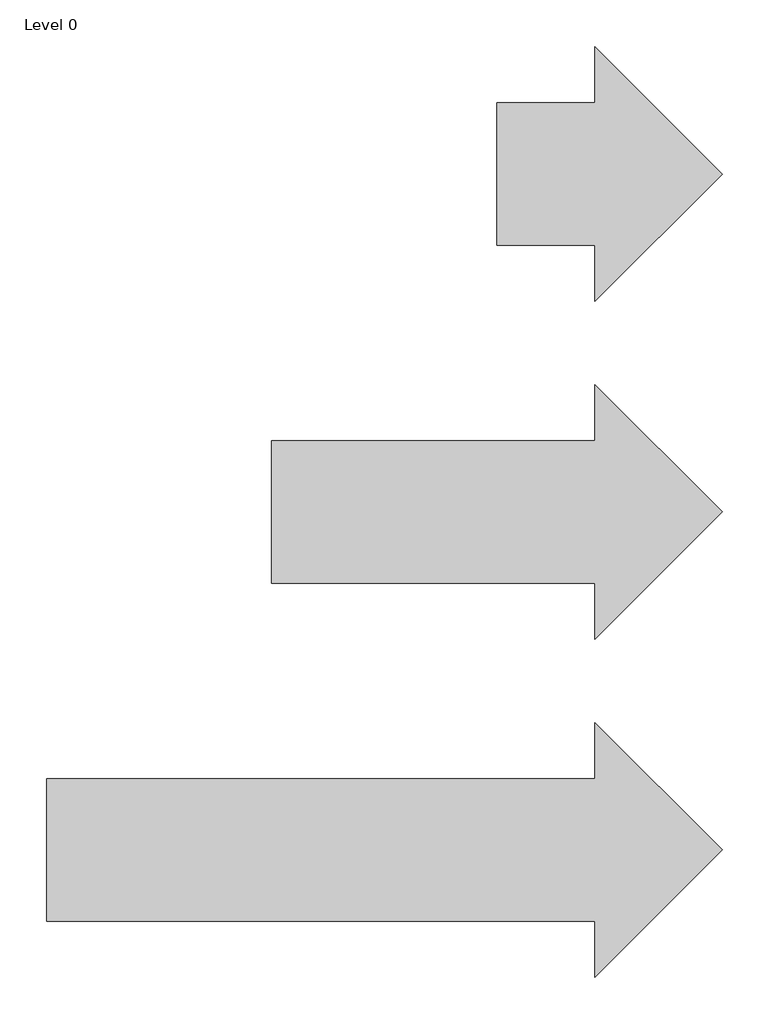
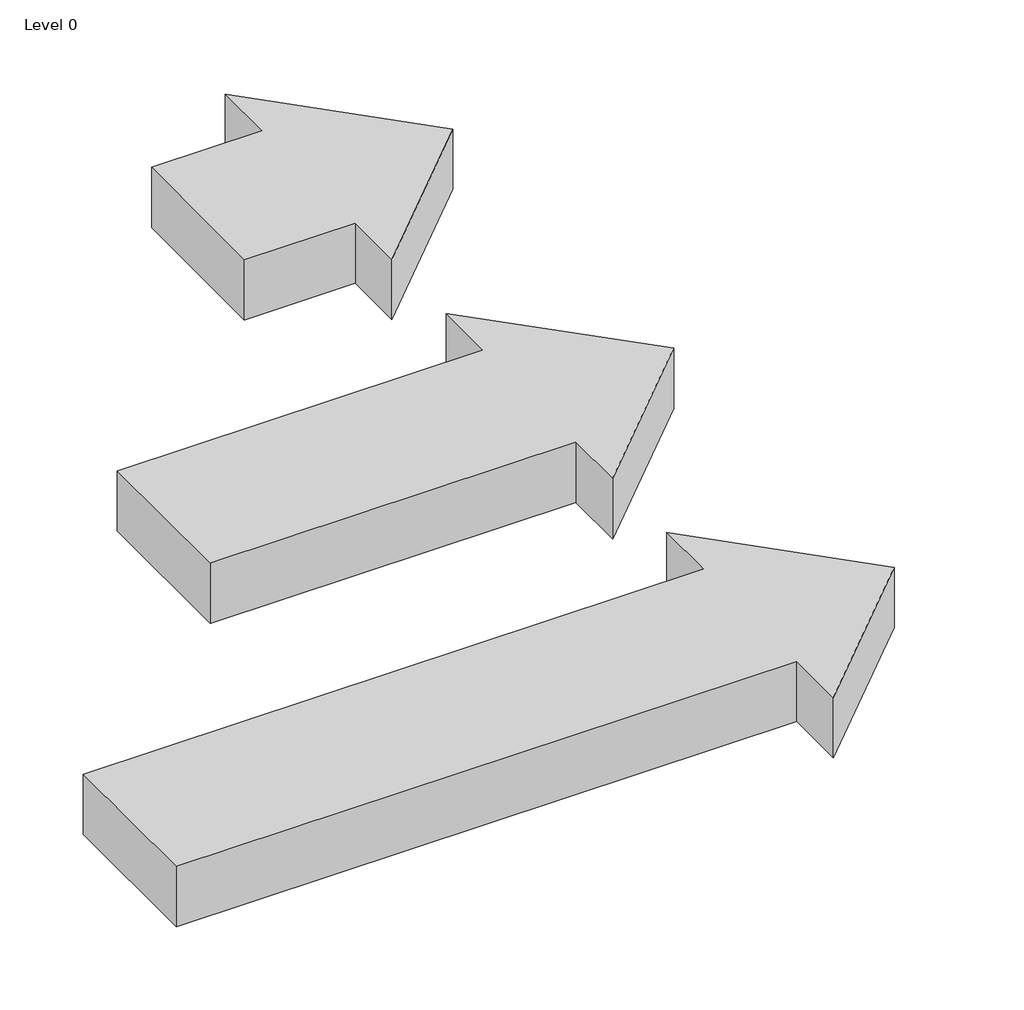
# One storey: 3 furniture elements.
"""IFC4 building model written with IfcOpenShell, lengths in millimetres."""

from ifc_helpers import new_model, si_unit, origin, place, context, project, spatial, transform, mapped, element, save
from components import family1_type_1_402a80f3, family1_type_2_3290de98, family1_type_3_7370d24d

model = new_model("IFC4")

# Units and contexts
model_context = context("Model", 3, world=origin())
ifc_project = project(units=[si_unit("LENGTHUNIT", "METRE", prefix="MILLI")], contexts=[model_context])

# Site, building, storey
site = spatial("IfcSite", under=ifc_project)
building = spatial("IfcBuilding", under=site)
storey = spatial("IfcBuildingStorey", under=building, Name="Level 0", Elevation=0.0)

# Furniture
placement = place(None, origin())
family1_type_1_shape = family1_type_1_402a80f3(model_context)
element("IfcFurniture", 1, ObjectType="Family1 : Type 1", at=placement, inside=storey, context=model_context, shape_type="MappedRepresentation", body=[
    mapped(family1_type_1_shape, transform((-8.1690935, 3307.6261165, 0.0), x_axis=(0.0, -1.0, 0.0), y_axis=(1.0, 0.0, 0.0), z_axis=(0.0, 0.0, 1.0))),
])
family1_type_2_shape = family1_type_2_3290de98(model_context)
element("IfcFurniture", 2, ObjectType="Family1 : Type 2", at=placement, inside=storey, context=model_context, shape_type="MappedRepresentation", body=[
    mapped(family1_type_2_shape, transform((-8.1690935, 2707.6261165, 0.0), x_axis=(0.0, -1.0, 0.0), y_axis=(1.0, 0.0, 0.0), z_axis=(0.0, 0.0, 1.0))),
])
family1_type_3_shape = family1_type_3_7370d24d(model_context)
element("IfcFurniture", 3, ObjectType="Family1 : Type 3", at=placement, inside=storey, context=model_context, shape_type="MappedRepresentation", body=[
    mapped(family1_type_3_shape, transform((-8.1690935, 2107.6261165, 0.0), x_axis=(0.0, -1.0, 0.0), y_axis=(1.0, 0.0, 0.0), z_axis=(0.0, 0.0, 1.0))),
])

save(model, "model.ifc")
